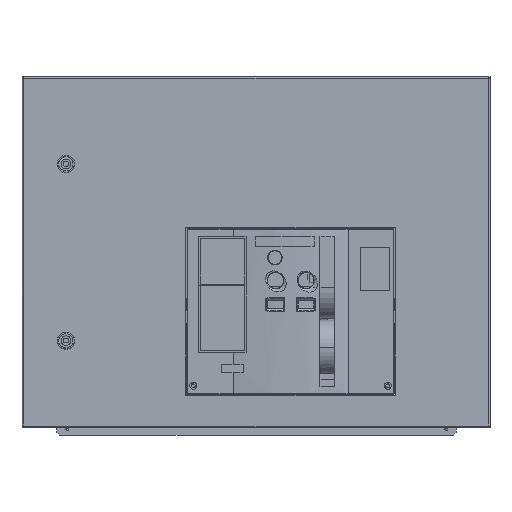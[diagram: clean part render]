
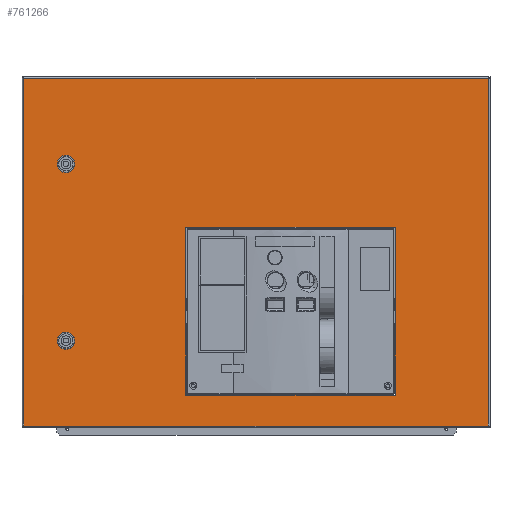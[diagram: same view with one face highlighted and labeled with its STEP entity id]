
A CAD part, top view. The second image highlights one B-rep face of the part: STEP entity #761266.
In plain terms, the highlighted planar face has unit normal (0, 0, 1).
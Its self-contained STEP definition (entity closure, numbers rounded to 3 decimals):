
#754661=CARTESIAN_POINT(' ',(393.1,544.7,26.9));
#754662=VERTEX_POINT(' ',#754661);
#755396=CARTESIAN_POINT(' ',(393.1,-44.7,26.9));
#755397=VERTEX_POINT(' ',#755396);
#756361=CARTESIAN_POINT(' ',(235.4,7.5,26.9));
#756366=DIRECTION(' ',(0.,1.,0.));
#756371=VECTOR(' ',#756366,1.);
#756376=LINE('',#756361,#756371);
#756381=CARTESIAN_POINT(' ',(235.4,7.5,26.9));
#756382=VERTEX_POINT(' ',#756381);
#756386=CARTESIAN_POINT(' ',(235.4,292.5,26.9));
#756387=VERTEX_POINT(' ',#756386);
#756391=EDGE_CURVE(' ',#756382,#756387,#756376,.T.);
#756506=CARTESIAN_POINT(' ',(235.4,292.5,26.9));
#756511=DIRECTION(' ',(-1.,0.,0.));
#756516=VECTOR(' ',#756511,1.);
#756521=LINE('',#756506,#756516);
#756526=CARTESIAN_POINT(' ',(-120.6,292.5,26.9));
#756527=VERTEX_POINT(' ',#756526);
#756531=EDGE_CURVE(' ',#756387,#756527,#756521,.T.);
#756621=CARTESIAN_POINT(' ',(-120.6,292.5,26.9));
#756626=DIRECTION(' ',(0.,-1.,0.));
#756631=VECTOR(' ',#756626,1.);
#756636=LINE('',#756621,#756631);
#756641=CARTESIAN_POINT(' ',(-120.6,7.5,26.9));
#756642=VERTEX_POINT(' ',#756641);
#756646=EDGE_CURVE(' ',#756527,#756642,#756636,.T.);
#756736=CARTESIAN_POINT(' ',(-120.6,7.5,26.9));
#756741=DIRECTION(' ',(1.,0.,0.));
#756746=VECTOR(' ',#756741,1.);
#756751=LINE('',#756736,#756746);
#756756=EDGE_CURVE(' ',#756642,#756382,#756751,.T.);
#756821=CARTESIAN_POINT(' ',(393.1,544.7,26.9));
#756826=DIRECTION(' ',(0.,-1.,0.));
#756831=VECTOR(' ',#756826,1.);
#756836=LINE('',#756821,#756831);
#756841=EDGE_CURVE(' ',#754662,#755397,#756836,.T.);
#759121=CARTESIAN_POINT(' ',(-395.3,-44.7,26.9));
#759122=VERTEX_POINT(' ',#759121);
#759736=CARTESIAN_POINT(' ',(-395.3,544.7,26.9));
#759737=VERTEX_POINT(' ',#759736);
#761106=DIRECTION(' ',(-0.,-0.,1.));
#761111=CARTESIAN_POINT(' ',(393.1,-44.7,26.9));
#761116=DIRECTION(' ',(0.,1.,0.));
#761121=AXIS2_PLACEMENT_3D(' ',#761111,#761106,#761116);
#761126=PLANE('NONE',#761121);
#761131=CARTESIAN_POINT(' ',(-395.3,-44.7,26.9));
#761136=DIRECTION(' ',(1.,0.,0.));
#761141=VECTOR(' ',#761136,1.);
#761146=LINE('',#761131,#761141);
#761151=EDGE_CURVE(' ',#759122,#755397,#761146,.T.);
#761156=ORIENTED_EDGE(' ',*,*,#761151,.T.);
#761161=ORIENTED_EDGE(' ',*,*,#756841,.F.);
#761166=CARTESIAN_POINT(' ',(393.1,544.7,26.9));
#761171=DIRECTION(' ',(-1.,0.,0.));
#761176=VECTOR(' ',#761171,1.);
#761181=LINE('',#761166,#761176);
#761186=EDGE_CURVE(' ',#754662,#759737,#761181,.T.);
#761191=ORIENTED_EDGE(' ',*,*,#761186,.T.);
#761196=CARTESIAN_POINT(' ',(-395.3,544.7,26.9));
#761201=DIRECTION(' ',(0.,-1.,0.));
#761206=VECTOR(' ',#761201,1.);
#761211=LINE('',#761196,#761206);
#761216=EDGE_CURVE(' ',#759737,#759122,#761211,.T.);
#761221=ORIENTED_EDGE(' ',*,*,#761216,.T.);
#761226=EDGE_LOOP(' ',(#761156,#761161,#761191,#761221));
#761231=FACE_OUTER_BOUND(' ',#761226,.T.);
#761236=ORIENTED_EDGE(' ',*,*,#756531,.F.);
#761241=ORIENTED_EDGE(' ',*,*,#756391,.F.);
#761246=ORIENTED_EDGE(' ',*,*,#756756,.F.);
#761251=ORIENTED_EDGE(' ',*,*,#756646,.F.);
#761256=EDGE_LOOP(' ',(#761236,#761241,#761246,#761251));
#761261=FACE_BOUND(' ',#761256,.T.);
#761266=ADVANCED_FACE('NONE',(#761231,#761261),#761126,.T.);
